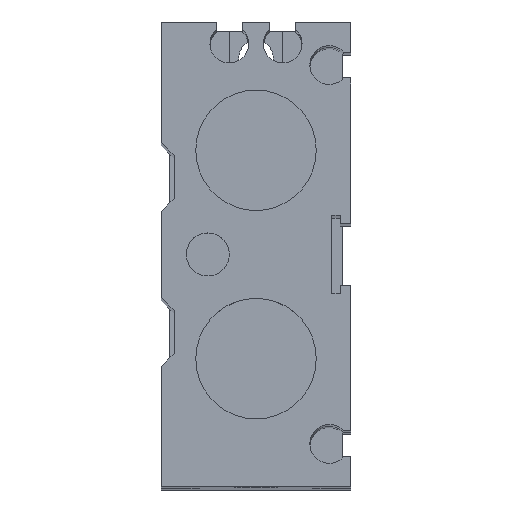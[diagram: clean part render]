
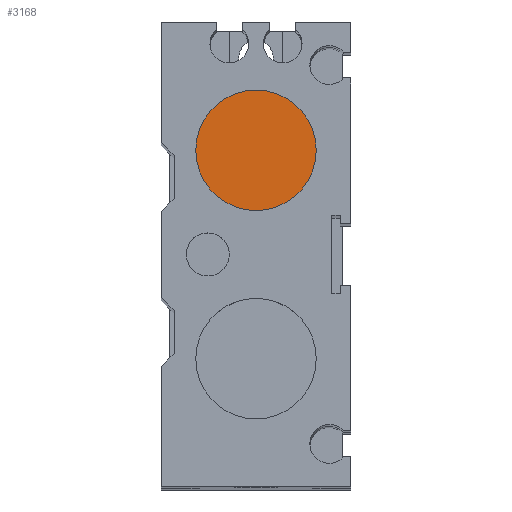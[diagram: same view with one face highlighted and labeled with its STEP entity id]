
A CAD part, top view. The second image highlights one B-rep face of the part: STEP entity #3168.
In plain terms, the highlighted planar face has unit normal (0, 0, 1).
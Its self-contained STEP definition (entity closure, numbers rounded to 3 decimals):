
#3137=CARTESIAN_POINT('',(7.,12.1,369.));
#3138=VERTEX_POINT('',#3137);
#3139=CARTESIAN_POINT('',(0.,12.1,369.));
#3140=DIRECTION('',(0.0,0.0,1.0));
#3141=DIRECTION('',(-1.0,0.0,0.0));
#3142=AXIS2_PLACEMENT_3D('',#3139,#3140,#3141);
#3143=CIRCLE('',#3142,7.);
#3144=EDGE_CURVE('',#3138,#3138,#3143,.T.);
#3160=CARTESIAN_POINT('',(0.,12.1,369.));
#3161=DIRECTION('',(0.0,0.0,-1.0));
#3162=DIRECTION('',(-1.0,0.0,0.0));
#3163=AXIS2_PLACEMENT_3D('',#3160,#3161,#3162);
#3164=PLANE('',#3163);
#3165=ORIENTED_EDGE('',*,*,#3144,.T.);
#3166=EDGE_LOOP('',(#3165));
#3167=FACE_OUTER_BOUND('',#3166,.T.);
#3168=ADVANCED_FACE('',(#3167),#3164,.F.);
